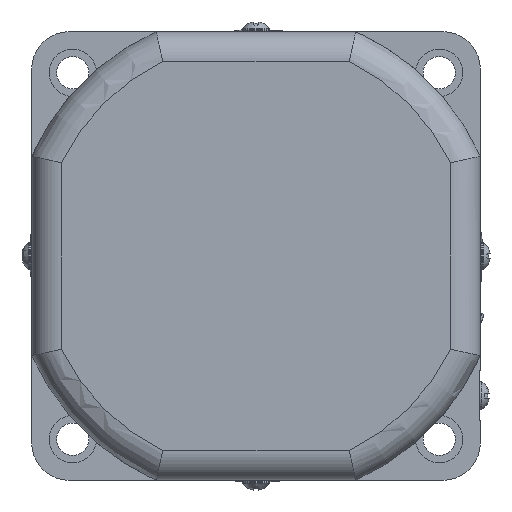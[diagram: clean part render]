
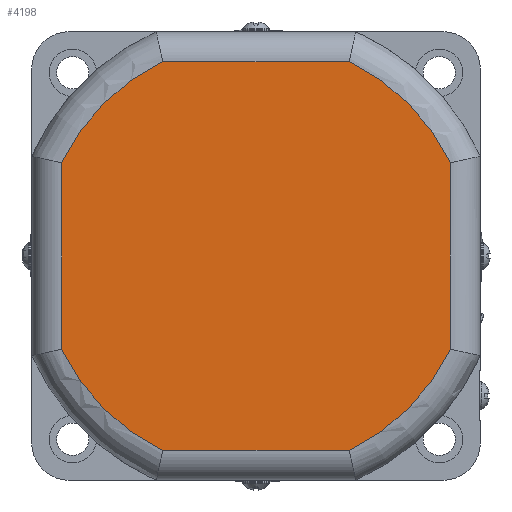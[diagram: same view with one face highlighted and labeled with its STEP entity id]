
A CAD part, left-side view. The second image highlights one B-rep face of the part: STEP entity #4198.
In plain terms, the highlighted planar face has unit normal (-1, 0, 0).
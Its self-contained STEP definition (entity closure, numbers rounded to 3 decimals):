
#278=LINE('',#6869,#628);
#281=LINE('',#6889,#631);
#282=LINE('',#6942,#632);
#283=LINE('',#6959,#633);
#628=VECTOR('',#5234,37.393);
#631=VECTOR('',#5239,37.393);
#632=VECTOR('',#5254,37.393);
#633=VECTOR('',#5257,37.393);
#1044=FACE_OUTER_BOUND('',#1305,.T.);
#1305=EDGE_LOOP('',(#3158,#3159,#3160,#3161,#3162,#3163,#3164,#3165));
#1550=CIRCLE('',#4529,43.25);
#1551=CIRCLE('',#4533,43.25);
#1554=CIRCLE('',#4537,43.25);
#1555=CIRCLE('',#4541,43.25);
#1825=VERTEX_POINT('',#6819);
#1827=VERTEX_POINT('',#6836);
#1829=VERTEX_POINT('',#6854);
#1831=VERTEX_POINT('',#6873);
#1832=VERTEX_POINT('',#6891);
#1833=VERTEX_POINT('',#6909);
#1834=VERTEX_POINT('',#6927);
#1835=VERTEX_POINT('',#6944);
#2310=EDGE_CURVE('',#1827,#1825,#1550,.T.);
#2312=EDGE_CURVE('',#1829,#1827,#278,.T.);
#2316=EDGE_CURVE('',#1825,#1831,#281,.T.);
#2318=EDGE_CURVE('',#1832,#1829,#1551,.T.);
#2322=EDGE_CURVE('',#1831,#1833,#1554,.T.);
#2324=EDGE_CURVE('',#1834,#1832,#282,.T.);
#2326=EDGE_CURVE('',#1833,#1835,#283,.T.);
#2327=EDGE_CURVE('',#1835,#1834,#1555,.T.);
#3158=ORIENTED_EDGE('',*,*,#2326,.F.);
#3159=ORIENTED_EDGE('',*,*,#2322,.F.);
#3160=ORIENTED_EDGE('',*,*,#2316,.F.);
#3161=ORIENTED_EDGE('',*,*,#2310,.F.);
#3162=ORIENTED_EDGE('',*,*,#2312,.F.);
#3163=ORIENTED_EDGE('',*,*,#2318,.F.);
#3164=ORIENTED_EDGE('',*,*,#2324,.F.);
#3165=ORIENTED_EDGE('',*,*,#2327,.F.);
#4004=PLANE('',#4543);
#4198=ADVANCED_FACE('',(#1044),#4004,.F.);
#4529=AXIS2_PLACEMENT_3D('',#6851,#5230,#5231);
#4533=AXIS2_PLACEMENT_3D('',#6906,#5242,#5243);
#4537=AXIS2_PLACEMENT_3D('',#6925,#5250,#5251);
#4541=AXIS2_PLACEMENT_3D('',#6961,#5260,#5261);
#4543=AXIS2_PLACEMENT_3D('',#6963,#5264,#5265);
#5230=DIRECTION('center_axis',(1.,0.,0.));
#5231=DIRECTION('ref_axis',(0.,0.707,0.707));
#5234=DIRECTION('',(0.,0.,1.));
#5239=DIRECTION('',(0.,-1.,0.));
#5242=DIRECTION('center_axis',(1.,0.,0.));
#5243=DIRECTION('ref_axis',(0.,0.707,-0.707));
#5250=DIRECTION('center_axis',(1.,0.,0.));
#5251=DIRECTION('ref_axis',(0.,-0.707,0.707));
#5254=DIRECTION('',(0.,1.,0.));
#5257=DIRECTION('',(0.,0.,-1.));
#5260=DIRECTION('center_axis',(1.,0.,0.));
#5261=DIRECTION('ref_axis',(0.,-0.707,-0.707));
#5264=DIRECTION('center_axis',(1.,0.,0.));
#5265=DIRECTION('ref_axis',(0.,0.,-1.));
#6819=CARTESIAN_POINT('',(-58.3,18.697,39.));
#6836=CARTESIAN_POINT('',(-58.3,39.,18.697));
#6851=CARTESIAN_POINT('Origin',(-58.3,0.,0.));
#6854=CARTESIAN_POINT('',(-58.3,39.,-18.697));
#6869=CARTESIAN_POINT('',(-58.3,39.,-18.697));
#6873=CARTESIAN_POINT('',(-58.3,-18.697,39.));
#6889=CARTESIAN_POINT('',(-58.3,18.697,39.));
#6891=CARTESIAN_POINT('',(-58.3,18.697,-39.));
#6906=CARTESIAN_POINT('Origin',(-58.3,0.,0.));
#6909=CARTESIAN_POINT('',(-58.3,-39.,18.697));
#6925=CARTESIAN_POINT('Origin',(-58.3,0.,0.));
#6927=CARTESIAN_POINT('',(-58.3,-18.697,-39.));
#6942=CARTESIAN_POINT('',(-58.3,-18.697,-39.));
#6944=CARTESIAN_POINT('',(-58.3,-39.,-18.697));
#6959=CARTESIAN_POINT('',(-58.3,-39.,18.697));
#6961=CARTESIAN_POINT('Origin',(-58.3,0.,0.));
#6963=CARTESIAN_POINT('Origin',(-58.3,0.,0.));
